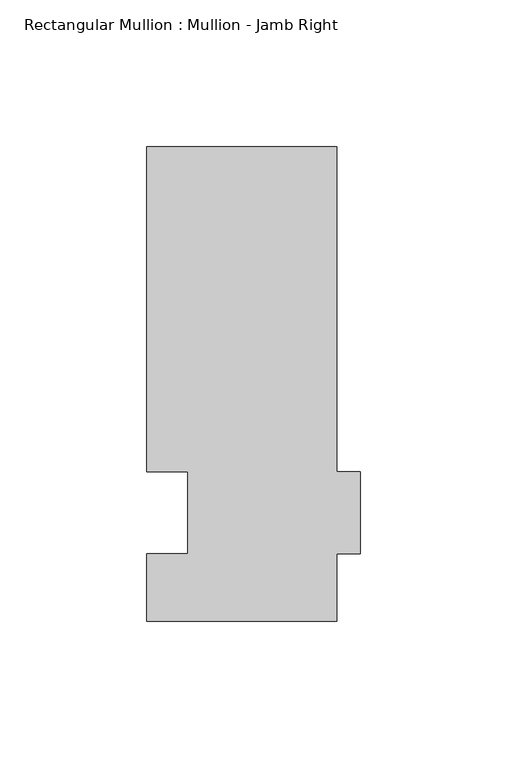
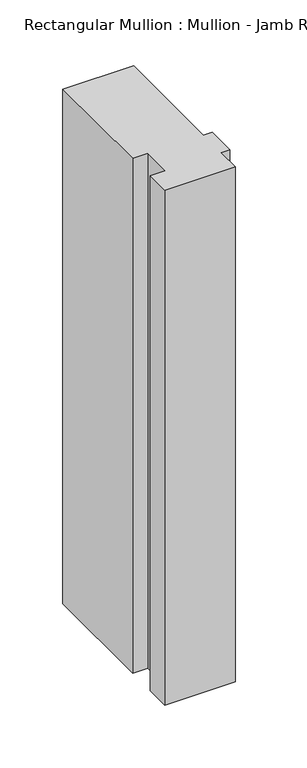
"""IFC4 building model written with IfcOpenShell, lengths in millimetres: member geometry, Rectangular Mullion : Mullion - Jamb Right."""

import ifcopenshell
import ifcopenshell.guid

model = None  # the IFC model being written
_history = None  # IfcOwnerHistory: only IFC2X3 demands one
_inside = {}  # id of a spatial element -> (the spatial element, [elements in it])
_under = {}  # id of a project, library or spatial element -> (it, [spatial elements below it])
_declared = {}  # id of a project -> (the project, [libraries it declares])
_typed = {}  # id of a type object -> (the type object, [elements of that type])
_made_of = {}  # id of a material, layer set ... -> (it, [elements and type objects made of it])


def new_model(schema):
    """Start an empty IFC model of exactly this schema.

    Asked for "IFC4X3", IfcOpenShell would pick the latest addendum, in which some entities
    have other attributes; the version numbers below select the first issue.
    IFC2X3 requires an IfcOwnerHistory on every rooted entity: one is made here for all.
    """
    global model, _history
    if schema == "IFC4X3":
        model = ifcopenshell.file(schema_version=(4, 3, 0, 0))
    else:
        model = ifcopenshell.file(schema=schema)
    _inside.clear()
    _under.clear()
    _declared.clear()
    _typed.clear()
    _made_of.clear()
    _history = None
    if model.schema == "IFC2X3":
        org = make("IfcOrganization", Name="unknown")
        user = make(
            "IfcPersonAndOrganization",
            ThePerson=make("IfcPerson", FamilyName="unknown"),
            TheOrganization=org,
        )
        app = make(
            "IfcApplication",
            ApplicationDeveloper=org,
            Version="unknown",
            ApplicationFullName="unknown",
            ApplicationIdentifier="unknown",
        )
        _history = make(
            "IfcOwnerHistory",
            OwningUser=user,
            OwningApplication=app,
            ChangeAction="ADDED",
            CreationDate=0,
        )
    return model


def make(cls, **values):
    """One entity of the class cls with the attributes given. An attribute that is None is left unset."""
    return model.create_entity(
        cls, **{name: value for name, value in values.items() if value is not None}
    )


def rooted(cls, **values):
    """An entity with a GlobalId (a new one), such as an element, a storey or a relation."""
    return make(cls, GlobalId=ifcopenshell.guid.new(), OwnerHistory=_history, **values)


def si_unit(unit_type, name, prefix=None):
    """IfcSIUnit, for example si_unit("LENGTHUNIT", "METRE", prefix="MILLI")."""
    return make("IfcSIUnit", UnitType=unit_type, Prefix=prefix, Name=name)


def assignment(units):
    """IfcUnitAssignment: the units of a project."""
    return None if units is None else make("IfcUnitAssignment", Units=units)


def point(xyz):
    """IfcCartesianPoint."""
    return None if xyz is None else make("IfcCartesianPoint", Coordinates=xyz)


def direction(xyz):
    """IfcDirection."""
    return None if xyz is None else make("IfcDirection", DirectionRatios=xyz)


def frame(location, z_axis=None, x_axis=None):
    """IfcAxis2Placement3D, a coordinate frame: its origin and axes. An axis left out is left unset."""
    return make(
        "IfcAxis2Placement3D",
        Location=point(location),
        Axis=direction(z_axis),
        RefDirection=direction(x_axis),
    )


def origin():
    """The frame at (0, 0, 0) with its axes left unset."""
    return frame((0.0, 0.0, 0.0))


def place(relative_to, where):
    """IfcLocalPlacement: puts the frame where relative to a parent placement (None: the world)."""
    return make(
        "IfcLocalPlacement", PlacementRelTo=relative_to, RelativePlacement=where
    )


def context(
    kind, dimensions, precision=None, world=None, true_north=None, identifier=None
):
    """IfcGeometricRepresentationContext, for example the 3D "Model" context."""
    return make(
        "IfcGeometricRepresentationContext",
        ContextIdentifier=identifier,
        ContextType=kind,
        CoordinateSpaceDimension=dimensions,
        Precision=precision,
        WorldCoordinateSystem=world,
        TrueNorth=true_north,
    )


def project(units=None, contexts=None):
    """IfcProject with its units and contexts."""
    return rooted(
        "IfcProject",
        Name="project",
        RepresentationContexts=contexts,
        UnitsInContext=assignment(units),
    )


def spatial(cls, under=None, at=None, **own):
    """A site, building, storey or space (cls), placed at a placement, below another one or the project."""
    s = rooted(cls, ObjectPlacement=at, **own)
    if under is not None:
        _under.setdefault(under.id(), (under, []))[1].append(s)
    return s


def polyline(points):
    """IfcPolyline through the points."""
    return make("IfcPolyline", Points=[point(p) for p in points])


def outline(outer, holes=None, kind="AREA"):
    """IfcArbitraryClosedProfileDef: a profile drawn as a closed curve; with holes, ...WithVoids."""
    if holes is None:
        return make("IfcArbitraryClosedProfileDef", ProfileType=kind, OuterCurve=outer)
    return make(
        "IfcArbitraryProfileDefWithVoids",
        ProfileType=kind,
        OuterCurve=outer,
        InnerCurves=holes,
    )


def extrude(swept, where, along, depth):
    """IfcExtrudedAreaSolid: the profile swept, set in the frame where, extruded along a direction by depth."""
    return make(
        "IfcExtrudedAreaSolid",
        SweptArea=swept,
        Position=where,
        ExtrudedDirection=direction(along),
        Depth=depth,
    )


def shape(context_of_items, identifier, shape_type, items):
    """IfcShapeRepresentation: the items that make up one representation, for example the "Body"."""
    return make(
        "IfcShapeRepresentation",
        ContextOfItems=context_of_items,
        RepresentationIdentifier=identifier,
        RepresentationType=shape_type,
        Items=items,
    )


def source(mapping_origin, context_of_items, identifier, shape_type, items):
    """IfcRepresentationMap: a shape defined once, which mapped items show again and again."""
    return make(
        "IfcRepresentationMap",
        MappingOrigin=mapping_origin,
        MappedRepresentation=shape(context_of_items, identifier, shape_type, items),
    )


def transform(
    local_origin,
    x_axis=None,
    y_axis=None,
    z_axis=None,
    scale=None,
    scale2=None,
    scale3=None,
    uniform=True,
):
    """IfcCartesianTransformationOperator3D, or its non-uniform kind. x_axis, y_axis, z_axis: its Axis1, 2, 3."""
    if uniform:
        return make(
            "IfcCartesianTransformationOperator3D",
            Axis1=direction(x_axis),
            Axis2=direction(y_axis),
            LocalOrigin=point(local_origin),
            Scale=scale,
            Axis3=direction(z_axis),
        )
    return make(
        "IfcCartesianTransformationOperator3DnonUniform",
        Axis1=direction(x_axis),
        Axis2=direction(y_axis),
        LocalOrigin=point(local_origin),
        Scale=scale,
        Axis3=direction(z_axis),
        Scale2=scale2,
        Scale3=scale3,
    )


def mapped(mapping_source, mapping_target):
    """IfcMappedItem: shows the shape of a source again, moved by a transform."""
    return make(
        "IfcMappedItem", MappingSource=mapping_source, MappingTarget=mapping_target
    )


def made_of(thing, what):
    """Note that an element or type object is made of a material, layer set ...; save() writes the relation."""
    if what is not None:
        _made_of.setdefault(what.id(), (what, []))[1].append(thing)
    return thing


def element(
    cls,
    number,
    at=None,
    inside=None,
    cuts=None,
    type_object=None,
    material=None,
    context=None,
    identifier="Body",
    shape_type=None,
    held_by="IfcProductDefinitionShape",
    body=None,
    shapes=None,
    **own,
):
    """One element of the class cls, such as IfcWall. Its Tag is "e" and its number.

    at: its placement. inside: the storey or other place that contains it. cuts: it is an
    opening in that element (IfcRelVoidsElement). A single representation is given by context,
    identifier, shape_type and body (its items); several are given by shapes. held_by: the class
    of the entity that holds the representations. save() writes the other relations.
    """
    e = rooted(cls, Tag="e%d" % number, ObjectPlacement=at, **own)
    if body is not None:
        shapes = [shape(context, identifier, shape_type, body)]
    if shapes is not None:
        e.Representation = make(held_by, Representations=shapes)
    if inside is not None:
        _inside.setdefault(inside.id(), (inside, []))[1].append(e)
    if cuts is not None:
        rooted(
            "IfcRelVoidsElement", RelatingBuildingElement=cuts, RelatedOpeningElement=e
        )
    if type_object is not None:
        _typed.setdefault(type_object.id(), (type_object, []))[1].append(e)
    return made_of(e, material)


def aggregate(whole, parts):
    """IfcRelAggregates: a whole, such as a stair, and the parts it consists of."""
    return rooted("IfcRelAggregates", RelatingObject=whole, RelatedObjects=parts)


def save(model, path):
    """Write the relations noted so far, then the file.

    IfcRelAggregates (storeys below a building ...), IfcRelContainedInSpatialStructure (elements
    in a storey), IfcRelDefinesByType, IfcRelAssociatesMaterial and IfcRelDeclares: one each for
    every whole, place, type object, material and project.
    """
    for whole, parts in _under.values():
        aggregate(whole, parts)
    for where, things in _inside.values():
        rooted(
            "IfcRelContainedInSpatialStructure",
            RelatedElements=things,
            RelatingStructure=where,
        )
    for kind, things in _typed.values():
        rooted("IfcRelDefinesByType", RelatedObjects=things, RelatingType=kind)
    for what, things in _made_of.values():
        rooted("IfcRelAssociatesMaterial", RelatedObjects=things, RelatingMaterial=what)
    for by, libraries in _declared.values():
        rooted("IfcRelDeclares", RelatingContext=by, RelatedDefinitions=libraries)
    model.write(path)


def rectangular_mullion_mullion_jamb_right_9be2126c(model_context):
    return source(origin(), model_context, "Body", "SweptSolid", [
        extrude(outline(polyline([(-8.0, -14.0), (-8.0, -37.0), (-73.0, -37.0), (-73.0, -14.0), (-59.0, -14.0), (-59.0, 14.0), (-73.0, 14.0), (-73.0, 125.0), (-8.0, 125.0), (-8.0, 14.0), (0.0, 14.0), (0.0, -14.0), (-8.0, -14.0)])), frame((0.0, 0.0, -500.0), z_axis=(0.0, 0.0, 1.0), x_axis=(1.0, 0.0, 0.0)), (0.0, 0.0, 1.0), 500.0),
    ])


if __name__ == "__main__":
    model = new_model("IFC4")
    model_context = context("Model", 3, world=origin())
    ifc_project = project(units=[si_unit("LENGTHUNIT", "METRE", prefix="MILLI")], contexts=[model_context])
    site = spatial("IfcSite", under=ifc_project)
    building = spatial("IfcBuilding", under=site)
    placement = place(None, origin())
    rectangular_mullion_mullion_jamb_right_shape = rectangular_mullion_mullion_jamb_right_9be2126c(model_context)
    element("IfcMember", 1, ObjectType="Rectangular Mullion : Mullion - Jamb Right", at=placement, inside=building, context=model_context, shape_type="MappedRepresentation", body=[
        mapped(rectangular_mullion_mullion_jamb_right_shape, transform((0.0, 0.0, 0.0), x_axis=(1.0, 0.0, 0.0), y_axis=(0.0, 1.0, 0.0), z_axis=(0.0, 0.0, 1.0))),
    ])
    save(model, "model.ifc")
